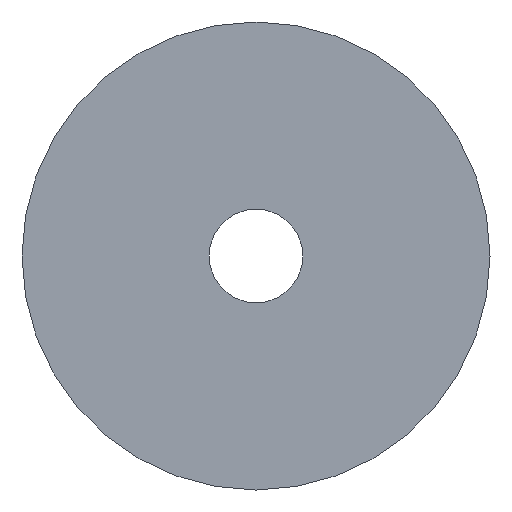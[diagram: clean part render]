
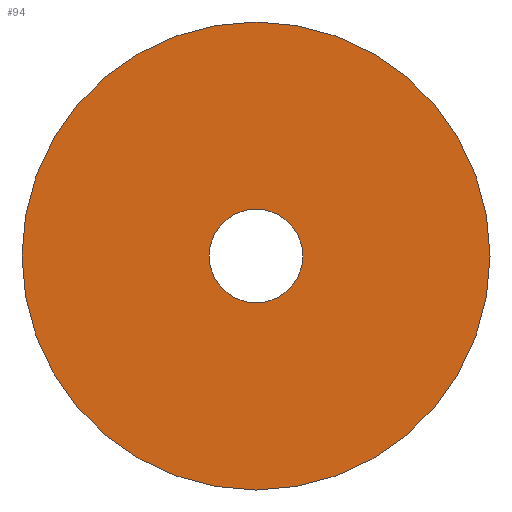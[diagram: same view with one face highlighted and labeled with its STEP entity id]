
A CAD part, left-side view. The second image highlights one B-rep face of the part: STEP entity #94.
In plain terms, the highlighted planar face has unit normal (-1, 0, 0).
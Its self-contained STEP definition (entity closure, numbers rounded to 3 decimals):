
#9 = VERTEX_POINT ( 'NONE', #70 ) ;
#10 = EDGE_CURVE ( 'NONE', #9, #11, #69, .T. ) ;
#11 = VERTEX_POINT ( 'NONE', #64 ) ;
#41 = EDGE_CURVE ( 'NONE', #42, #43, #259, .T. ) ;
#42 = VERTEX_POINT ( 'NONE', #254 ) ;
#43 = VERTEX_POINT ( 'NONE', #253 ) ;
#64 = CARTESIAN_POINT ( 'NONE',  ( 0., 0., 2.5 ) ) ;
#65 = DIRECTION ( 'NONE',  ( 0., 0., -1. ) ) ;
#66 = DIRECTION ( 'NONE',  ( 1., 0., 0. ) ) ;
#67 = CARTESIAN_POINT ( 'NONE',  ( 0., 0., 0. ) ) ;
#68 = AXIS2_PLACEMENT_3D ( 'NONE', #67, #66, #65 ) ;
#69 = CIRCLE ( 'NONE', #68, 2.5 ) ;
#70 = CARTESIAN_POINT ( 'NONE',  ( 0., 0., -2.5 ) ) ;
#93 = EDGE_CURVE ( 'NONE', #11, #9, #193, .T. ) ;
#94 = ADVANCED_FACE ( 'NONE', ( #188, #187 ), #186, .F. ) ;
#95 = EDGE_LOOP ( 'NONE', ( #96, #118 ) ) ;
#96 = ORIENTED_EDGE ( 'NONE', *, *, #97, .T. ) ;
#97 = EDGE_CURVE ( 'NONE', #43, #42, #233, .T. ) ;
#118 = ORIENTED_EDGE ( 'NONE', *, *, #41, .T. ) ;
#119 = EDGE_LOOP ( 'NONE', ( #120, #121 ) ) ;
#120 = ORIENTED_EDGE ( 'NONE', *, *, #93, .F. ) ;
#121 = ORIENTED_EDGE ( 'NONE', *, *, #10, .F. ) ;
#186 = PLANE ( 'NONE',  #237 ) ;
#187 = FACE_OUTER_BOUND ( 'NONE', #119, .T. ) ;
#188 = FACE_BOUND ( 'NONE', #95, .T. ) ;
#189 = DIRECTION ( 'NONE',  ( 0., 0., -1. ) ) ;
#190 = DIRECTION ( 'NONE',  ( 1., 0., 0. ) ) ;
#191 = CARTESIAN_POINT ( 'NONE',  ( 0., 0., 0. ) ) ;
#192 = AXIS2_PLACEMENT_3D ( 'NONE', #191, #190, #189 ) ;
#193 = CIRCLE ( 'NONE', #192, 2.5 ) ;
#229 = DIRECTION ( 'NONE',  ( 0., 0., -1. ) ) ;
#230 = DIRECTION ( 'NONE',  ( 1., 0., 0. ) ) ;
#231 = CARTESIAN_POINT ( 'NONE',  ( 0., 0., 0. ) ) ;
#232 = AXIS2_PLACEMENT_3D ( 'NONE', #231, #230, #229 ) ;
#233 = CIRCLE ( 'NONE', #232, 0.5 ) ;
#234 = DIRECTION ( 'NONE',  ( 0., 0., -1. ) ) ;
#235 = DIRECTION ( 'NONE',  ( 1., 0., 0. ) ) ;
#236 = CARTESIAN_POINT ( 'NONE',  ( 0., 0., 0. ) ) ;
#237 = AXIS2_PLACEMENT_3D ( 'NONE', #236, #235, #234 ) ;
#253 = CARTESIAN_POINT ( 'NONE',  ( 0., 0., -0.5 ) ) ;
#254 = CARTESIAN_POINT ( 'NONE',  ( 0., 0., 0.5 ) ) ;
#255 = DIRECTION ( 'NONE',  ( 0., 0., -1. ) ) ;
#256 = DIRECTION ( 'NONE',  ( 1., 0., 0. ) ) ;
#257 = CARTESIAN_POINT ( 'NONE',  ( 0., 0., 0. ) ) ;
#258 = AXIS2_PLACEMENT_3D ( 'NONE', #257, #256, #255 ) ;
#259 = CIRCLE ( 'NONE', #258, 0.5 ) ;
